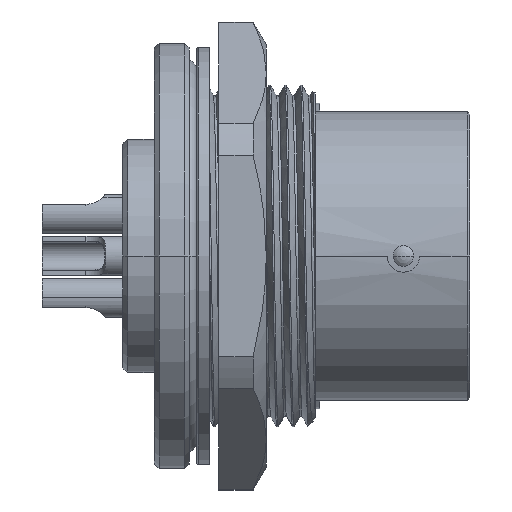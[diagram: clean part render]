
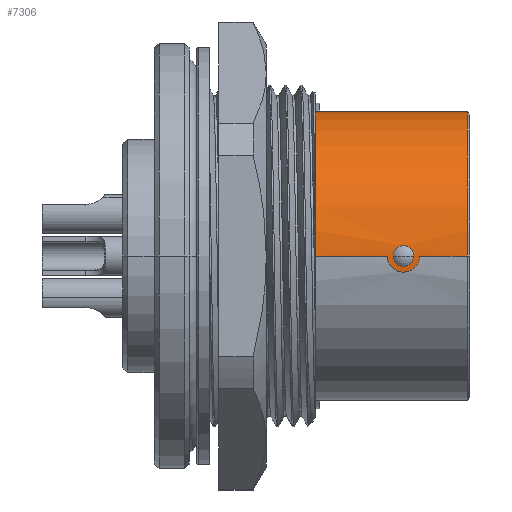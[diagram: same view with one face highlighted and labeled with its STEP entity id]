
A CAD part, front view. The second image highlights one B-rep face of the part: STEP entity #7306.
In plain terms, the highlighted cylindrical face has radius 9.15 mm (diameter 18.3 mm), a partial arc.
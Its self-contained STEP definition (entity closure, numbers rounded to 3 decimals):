
#1764=CARTESIAN_POINT('',(1.8,0.,0.));
#1765=DIRECTION('',(1.,0.,0.));
#1766=DIRECTION('',(0.,1.,0.));
#1767=AXIS2_PLACEMENT_3D('',#1764,#1765,#1766);
#1769=DIRECTION('',(1.,0.,0.));
#1770=VECTOR('',#1769,8.);
#1771=CARTESIAN_POINT('',(1.8,9.15,0.));
#1772=LINE('',#1771,#1770);
#1773=CARTESIAN_POINT('',(9.8,9.15,0.));
#1774=CARTESIAN_POINT('',(9.8,9.15,0.054));
#1775=CARTESIAN_POINT('',(9.817,9.149,0.156));
#1776=CARTESIAN_POINT('',(9.889,9.145,0.299));
#1777=CARTESIAN_POINT('',(10.001,9.141,0.411));
#1778=CARTESIAN_POINT('',(10.143,9.137,0.483));
#1779=CARTESIAN_POINT('',(10.3,9.136,0.508));
#1780=CARTESIAN_POINT('',(10.457,9.137,0.483));
#1781=CARTESIAN_POINT('',(10.599,9.141,0.411));
#1782=CARTESIAN_POINT('',(10.711,9.145,0.299));
#1783=CARTESIAN_POINT('',(10.783,9.149,0.156));
#1784=CARTESIAN_POINT('',(10.8,9.15,0.054));
#1785=CARTESIAN_POINT('',(10.8,9.15,0.));
#1787=DIRECTION('',(1.,0.,0.));
#1788=VECTOR('',#1787,0.65);
#1789=CARTESIAN_POINT('',(10.8,9.15,0.));
#1790=LINE('',#1789,#1788);
#1791=CARTESIAN_POINT('',(11.45,0.,0.));
#1792=DIRECTION('',(1.,0.,0.));
#1793=DIRECTION('',(0.,1.,0.));
#1794=AXIS2_PLACEMENT_3D('',#1791,#1792,#1793);
#1796=CARTESIAN_POINT('',(6.762,-9.15,0.));
#1797=CARTESIAN_POINT('',(6.762,-9.15,0.072));
#1798=CARTESIAN_POINT('',(6.783,-9.148,
0.21));
#1799=CARTESIAN_POINT('',(6.881,-9.141,
0.409));
#1800=CARTESIAN_POINT('',(7.029,-9.133,
0.555));
#1801=CARTESIAN_POINT('',(7.204,-9.127,
0.645));
#1802=CARTESIAN_POINT('',(7.4,-9.125,
0.677));
#1803=CARTESIAN_POINT('',(7.595,-9.127,
0.645));
#1804=CARTESIAN_POINT('',(7.77,-9.133,
0.555));
#1805=CARTESIAN_POINT('',(7.918,-9.141,
0.409));
#1806=CARTESIAN_POINT('',(8.017,-9.148,
0.21));
#1807=CARTESIAN_POINT('',(8.038,-9.15,0.072));
#1808=CARTESIAN_POINT('',(8.038,-9.15,0.));
#1824=CARTESIAN_POINT('',(8.038,-9.15,0.));
#1825=CARTESIAN_POINT('',(8.038,-9.15,-0.072));
#1826=CARTESIAN_POINT('',(8.017,-9.148,
-0.209));
#1827=CARTESIAN_POINT('',(7.92,-9.142,
-0.406));
#1828=CARTESIAN_POINT('',(7.772,-9.133,
-0.554));
#1829=CARTESIAN_POINT('',(7.596,-9.127,
-0.645));
#1830=CARTESIAN_POINT('',(7.4,-9.125,
-0.677));
#1831=CARTESIAN_POINT('',(7.204,-9.127,
-0.645));
#1832=CARTESIAN_POINT('',(7.028,-9.133,
-0.555));
#1833=CARTESIAN_POINT('',(6.88,-9.142,
-0.407));
#1834=CARTESIAN_POINT('',(6.783,-9.148,
-0.209));
#1835=CARTESIAN_POINT('',(6.762,-9.15,-0.072));
#1836=CARTESIAN_POINT('',(6.762,-9.15,0.));
#1908=DIRECTION('',(1.,0.,0.));
#1909=VECTOR('',#1908,3.025);
#1910=CARTESIAN_POINT('',(8.425,-9.15,0.));
#1911=LINE('',#1910,#1909);
#1936=DIRECTION('',(1.,0.,0.));
#1937=VECTOR('',#1936,4.575);
#1938=CARTESIAN_POINT('',(1.8,-9.15,0.));
#1939=LINE('',#1938,#1937);
#1940=CARTESIAN_POINT('',(6.375,-9.15,0.));
#1941=CARTESIAN_POINT('',(6.375,-9.15,-0.099));
#1942=CARTESIAN_POINT('',(6.402,-9.147,
-0.288));
#1943=CARTESIAN_POINT('',(6.528,-9.134,
-0.568));
#1944=CARTESIAN_POINT('',(6.73,-9.116,
-0.794));
#1945=CARTESIAN_POINT('',(6.973,-9.101,
-0.947));
#1946=CARTESIAN_POINT('',(7.256,-9.092,
-1.029));
#1947=CARTESIAN_POINT('',(7.543,-9.092,
-1.029));
#1948=CARTESIAN_POINT('',(7.826,-9.101,
-0.947));
#1949=CARTESIAN_POINT('',(8.069,-9.116,
-0.795));
#1950=CARTESIAN_POINT('',(8.272,-9.134,
-0.568));
#1951=CARTESIAN_POINT('',(8.398,-9.147,
-0.288));
#1952=CARTESIAN_POINT('',(8.425,-9.15,-0.098));
#1953=CARTESIAN_POINT('',(8.425,-9.15,0.));
#2374=CARTESIAN_POINT('',(6.762,4.575,7.924));
#2375=CARTESIAN_POINT('',(6.762,4.638,7.888));
#2376=CARTESIAN_POINT('',(6.784,4.756,7.818));
#2377=CARTESIAN_POINT('',(6.877,4.919,7.716));
#2378=CARTESIAN_POINT('',(7.023,5.044,7.634));
#2379=CARTESIAN_POINT('',(7.202,5.122,7.582));
#2380=CARTESIAN_POINT('',(7.4,5.149,7.564));
#2381=CARTESIAN_POINT('',(7.598,5.122,7.582));
#2382=CARTESIAN_POINT('',(7.776,5.044,7.634));
#2383=CARTESIAN_POINT('',(7.923,4.919,7.716));
#2384=CARTESIAN_POINT('',(8.016,4.756,7.818));
#2385=CARTESIAN_POINT('',(8.038,4.638,7.888));
#2386=CARTESIAN_POINT('',(8.038,4.575,7.924));
#2402=CARTESIAN_POINT('',(8.038,4.575,7.924));
#2403=CARTESIAN_POINT('',(8.038,4.512,7.96));
#2404=CARTESIAN_POINT('',(8.016,4.392,8.028));
#2405=CARTESIAN_POINT('',(7.923,4.223,8.118));
#2406=CARTESIAN_POINT('',(7.777,4.089,8.186));
#2407=CARTESIAN_POINT('',(7.598,4.005,8.227));
#2408=CARTESIAN_POINT('',(7.4,3.976,8.241));
#2409=CARTESIAN_POINT('',(7.202,4.005,8.227));
#2410=CARTESIAN_POINT('',(7.024,4.089,8.186));
#2411=CARTESIAN_POINT('',(6.877,4.223,8.118));
#2412=CARTESIAN_POINT('',(6.784,4.392,8.028));
#2413=CARTESIAN_POINT('',(6.762,4.512,7.961));
#2414=CARTESIAN_POINT('',(6.762,4.575,7.924));
#3816=CARTESIAN_POINT('',(11.45,9.15,0.));
#3817=VERTEX_POINT('',#3816);
#3818=CARTESIAN_POINT('',(11.45,-9.15,0.));
#3819=VERTEX_POINT('',#3818);
#3820=VERTEX_POINT('',#1773);
#3821=VERTEX_POINT('',#1785);
#3822=CARTESIAN_POINT('',(1.8,9.15,0.));
#3823=CARTESIAN_POINT('',(1.8,-9.15,0.));
#3824=VERTEX_POINT('',#3822);
#3825=VERTEX_POINT('',#3823);
#4314=VERTEX_POINT('',#1940);
#4315=VERTEX_POINT('',#1953);
#4320=VERTEX_POINT('',#2374);
#4321=VERTEX_POINT('',#2386);
#4324=VERTEX_POINT('',#1796);
#4325=VERTEX_POINT('',#1808);
#7272=CARTESIAN_POINT('',(-11.5,0.,0.));
#7273=DIRECTION('',(1.,0.,0.));
#7274=DIRECTION('',(0.,-1.,0.));
#7275=AXIS2_PLACEMENT_3D('',#7272,#7273,#7274);
#7276=CYLINDRICAL_SURFACE('',#7275,9.15);
#7278=ORIENTED_EDGE('',*,*,#7277,.F.);
#7280=ORIENTED_EDGE('',*,*,#7279,.F.);
#7282=ORIENTED_EDGE('',*,*,#7281,.F.);
#7283=ORIENTED_EDGE('',*,*,#7265,.F.);
#7285=ORIENTED_EDGE('',*,*,#7284,.T.);
#7287=ORIENTED_EDGE('',*,*,#7286,.T.);
#7289=ORIENTED_EDGE('',*,*,#7288,.T.);
#7291=ORIENTED_EDGE('',*,*,#7290,.T.);
#7292=EDGE_LOOP('',(#7278,#7280,#7282,#7283,#7285,#7287,#7289,#7291));
#7293=FACE_OUTER_BOUND('',#7292,.F.);
#7295=ORIENTED_EDGE('',*,*,#7294,.F.);
#7297=ORIENTED_EDGE('',*,*,#7296,.F.);
#7298=EDGE_LOOP('',(#7295,#7297));
#7299=FACE_BOUND('',#7298,.F.);
#7301=ORIENTED_EDGE('',*,*,#7300,.F.);
#7303=ORIENTED_EDGE('',*,*,#7302,.F.);
#7304=EDGE_LOOP('',(#7301,#7303));
#7305=FACE_BOUND('',#7304,.F.);
#7306=ADVANCED_FACE('',(#7293,#7299,#7305),#7276,.T.);
#1768=CIRCLE('',#1767,9.15);
#1786=B_SPLINE_CURVE_WITH_KNOTS('',3,(#1773,#1774,#1775,#1776,#1777,#1778,#1779,
#1780,#1781,#1782,#1783,#1784,#1785),.UNSPECIFIED.,.F.,.F.,(4,1,1,1,1,1,1,1,1,1,
4),(0.,0.1,0.2,0.3,0.4,0.5,0.6,0.7,0.8,0.9,1.),
.UNSPECIFIED.);
#1795=CIRCLE('',#1794,9.15);
#1809=B_SPLINE_CURVE_WITH_KNOTS('',3,(#1796,#1797,#1798,#1799,#1800,#1801,#1802,
#1803,#1804,#1805,#1806,#1807,#1808),.UNSPECIFIED.,.F.,.F.,(4,1,1,1,1,1,1,1,1,1,
4),(0.,0.1,0.2,0.3,0.4,0.5,0.6,0.7,0.8,0.9,1.),
.UNSPECIFIED.);
#1837=B_SPLINE_CURVE_WITH_KNOTS('',3,(#1824,#1825,#1826,#1827,#1828,#1829,#1830,
#1831,#1832,#1833,#1834,#1835,#1836),.UNSPECIFIED.,.F.,.F.,(4,1,1,1,1,1,1,1,1,1,
4),(0.,0.1,0.2,0.3,0.4,0.5,0.6,0.7,0.8,0.9,1.),
.UNSPECIFIED.);
#1954=B_SPLINE_CURVE_WITH_KNOTS('',3,(#1940,#1941,#1942,#1943,#1944,#1945,#1946,
#1947,#1948,#1949,#1950,#1951,#1952,#1953),.UNSPECIFIED.,.F.,.F.,(4,1,1,1,1,1,1,
1,1,1,1,4),(0.,0.091,0.182,0.273,
0.364,0.455,0.545,0.636,
0.727,0.818,0.909,1.),.UNSPECIFIED.);
#2387=B_SPLINE_CURVE_WITH_KNOTS('',3,(#2374,#2375,#2376,#2377,#2378,#2379,#2380,
#2381,#2382,#2383,#2384,#2385,#2386),.UNSPECIFIED.,.F.,.F.,(4,1,1,1,1,1,1,1,1,1,
4),(0.,0.1,0.2,0.3,0.4,0.5,0.6,0.7,0.8,0.9,1.),
.UNSPECIFIED.);
#2415=B_SPLINE_CURVE_WITH_KNOTS('',3,(#2402,#2403,#2404,#2405,#2406,#2407,#2408,
#2409,#2410,#2411,#2412,#2413,#2414),.UNSPECIFIED.,.F.,.F.,(4,1,1,1,1,1,1,1,1,1,
4),(0.,0.1,0.2,0.3,0.4,0.5,0.6,0.7,0.8,0.9,1.),
.UNSPECIFIED.);
#7265=EDGE_CURVE('',#3824,#3825,#1768,.T.);
#7277=EDGE_CURVE('',#4315,#3819,#1911,.T.);
#7279=EDGE_CURVE('',#4314,#4315,#1954,.T.);
#7281=EDGE_CURVE('',#3825,#4314,#1939,.T.);
#7284=EDGE_CURVE('',#3824,#3820,#1772,.T.);
#7286=EDGE_CURVE('',#3820,#3821,#1786,.T.);
#7288=EDGE_CURVE('',#3821,#3817,#1790,.T.);
#7290=EDGE_CURVE('',#3817,#3819,#1795,.T.);
#7294=EDGE_CURVE('',#4320,#4321,#2387,.T.);
#7296=EDGE_CURVE('',#4321,#4320,#2415,.T.);
#7300=EDGE_CURVE('',#4324,#4325,#1809,.T.);
#7302=EDGE_CURVE('',#4325,#4324,#1837,.T.);
